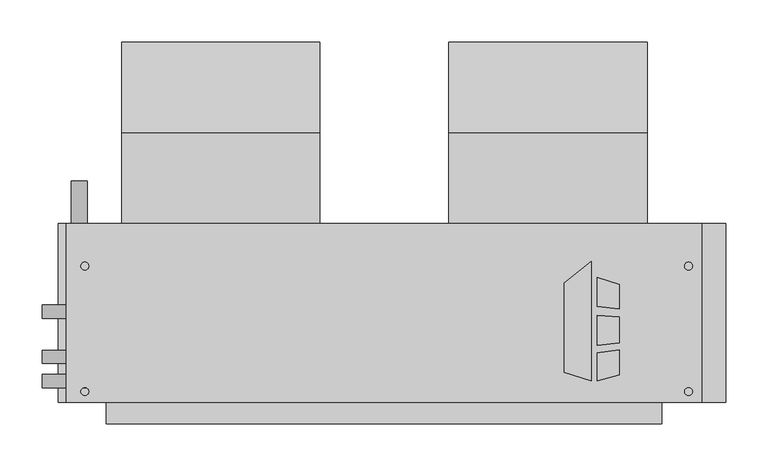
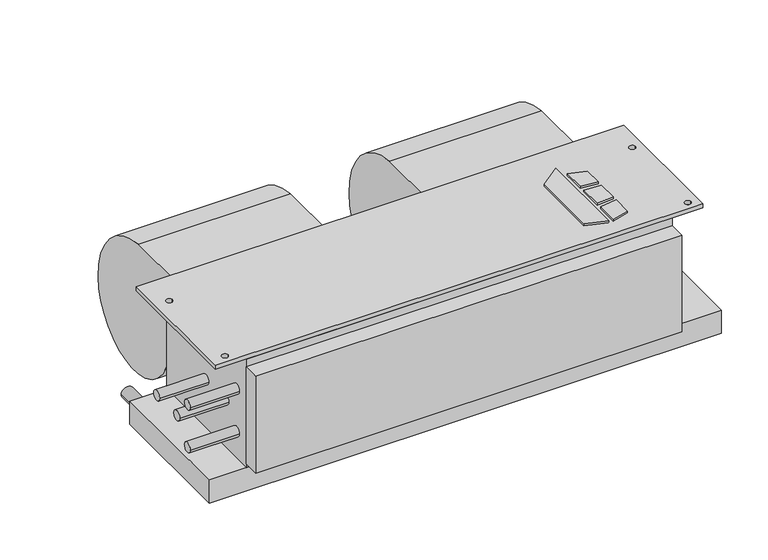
"""IFC4 building model written with IfcOpenShell, lengths in millimetres: proxy geometry, Concealed_Horizontal_Fan_Coil_Unit_-_CHY_-_IEC_-_4-Pipe_LH_2022 : Size 04 - 277v/60Hz/1Ph - 4/1 Coil."""

from ifc_helpers import new_model, si_unit, point, frame, frame_2d, origin, origin_with_axes, place, context, project, spatial, polyline, circle_curve, trimmed, segment, composite_curve, outline, extrude, source, transform, mapped, element, save


def mechanical_equipment_e6d8fa8a(model_context):
    return source(origin(), model_context, "Body", "SweptSolid", [
        extrude(outline(polyline([(366.4019761, -202.5703476), (398.9602728, -177.1330184), (398.9602728, -319.0875), (366.4019761, -308.8679201), (366.4019761, -202.5703476)])), origin_with_axes(), (0.0, 0.0, 1.0), 3.175),
        extrude(outline(polyline([(405.7186058, -230.442352), (405.7186058, -195.9624379), (431.8, -204.1490115), (431.8, -233.6447446), (405.7186058, -230.442352)])), origin_with_axes(), (0.0, 0.0, 1.0), 3.175),
        extrude(outline(polyline([(431.8, -312.0990115), (405.7186058, -319.0875), (405.7186058, -285.8661996), (431.8, -282.3243564), (431.8, -312.0990115)])), origin_with_axes(), (0.0, 0.0, 1.0), 3.175),
        extrude(outline(polyline([(431.8, -242.7263277), (431.8, -273.976483), (405.7186058, -276.717748), (405.7186058, -240.8600378), (431.8, -242.7263277)])), origin_with_axes(), (0.0, 0.0, 1.0), 3.175),
        extrude(outline(composite_curve([segment(trimmed(circle_curve(frame_2d((-33.198831, -136.0299844)), 117.3559541), [point((-23.8125, -19.05))], [point((84.1375, -138.176))], False, "CARTESIAN"), True, "CONTINUOUS"), segment(trimmed(circle_curve(frame_2d((-11.5977337, -136.4250563)), 95.7512443), [point((84.1375, -138.176))], [point((-23.8125, -231.394))], False, "CARTESIAN"), True, "CONTINUOUS"), segment(trimmed(circle_curve(frame_2d((-11.6288131, -136.6666968)), 95.5076133), [point((-23.8125, -231.394))], [point((-107.1245, -138.176))], False, "CARTESIAN"), True, "CONTINUOUS"), segment(trimmed(circle_curve(frame_2d((-126.2059828, -138.4775816)), 19.0838659), [point((-107.1245, -138.176))], [point((-119.3963373, -120.65))], True, "CARTESIAN"), True, "CONTINUOUS"), segment(polyline([(-119.3963373, -120.65), (-131.7625, -120.65), (-131.7625, -19.05), (-23.8125, -19.05)]), True, "CONTINUOUS")], self_intersect=False)), frame((229.4255, 0.0, 0.0), z_axis=(1.0, 0.0, 0.0), x_axis=(0.0, 1.0, 0.0)), (0.0, 0.0, 1.0), 235.712),
        extrude(outline(composite_curve([segment(trimmed(circle_curve(frame_2d((-33.198831, -136.0299844)), 117.3559541), [point((-23.8125, -19.05))], [point((84.1375, -138.176))], False, "CARTESIAN"), True, "CONTINUOUS"), segment(trimmed(circle_curve(frame_2d((-11.5977337, -136.4250563)), 95.7512443), [point((84.1375, -138.176))], [point((-23.8125, -231.394))], False, "CARTESIAN"), True, "CONTINUOUS"), segment(trimmed(circle_curve(frame_2d((-11.6288131, -136.6666968)), 95.5076133), [point((-23.8125, -231.394))], [point((-107.1245, -138.176))], False, "CARTESIAN"), True, "CONTINUOUS"), segment(trimmed(circle_curve(frame_2d((-126.2059828, -138.4775816)), 19.0838659), [point((-107.1245, -138.176))], [point((-119.3963373, -120.65))], True, "CARTESIAN"), True, "CONTINUOUS"), segment(polyline([(-119.3963373, -120.65), (-131.7625, -120.65), (-131.7625, -19.05), (-23.8125, -19.05)]), True, "CONTINUOUS")], self_intersect=False)), frame((-159.512, 0.0, 0.0), z_axis=(1.0, 0.0, 0.0), x_axis=(0.0, 1.0, 0.0)), (0.0, 0.0, 1.0), 235.712),
        extrude(outline(polyline([(530.225, -131.7625), (530.225, -344.4875), (-225.425, -344.4875), (-225.425, -131.7625), (530.225, -131.7625)]), holes=[composite_curve([segment(trimmed(circle_curve(frame_2d((-203.2, -182.5625)), 4.7625), [point((-207.9625, -182.5625))], [point((-198.4375, -182.5625))], True, "CARTESIAN"), True, "CONTINUOUS"), segment(trimmed(circle_curve(frame_2d((-203.2, -182.5625)), 4.7625), [point((-198.4375, -182.5625))], [point((-207.9625, -182.5625))], True, "CARTESIAN"), True, "CONTINUOUS")], self_intersect=False), composite_curve([segment(trimmed(circle_curve(frame_2d((-203.2, -331.7875)), 4.7625), [point((-207.9625, -331.7875))], [point((-198.4375, -331.7875))], True, "CARTESIAN"), True, "CONTINUOUS"), segment(trimmed(circle_curve(frame_2d((-203.2, -331.7875)), 4.7625), [point((-198.4375, -331.7875))], [point((-207.9625, -331.7875))], True, "CARTESIAN"), True, "CONTINUOUS")], self_intersect=False), composite_curve([segment(trimmed(circle_curve(frame_2d((514.35, -182.5625)), 4.7625), [point((509.5875, -182.5625))], [point((519.1125, -182.5625))], True, "CARTESIAN"), True, "CONTINUOUS"), segment(trimmed(circle_curve(frame_2d((514.35, -182.5625)), 4.7625), [point((519.1125, -182.5625))], [point((509.5875, -182.5625))], True, "CARTESIAN"), True, "CONTINUOUS")], self_intersect=False), composite_curve([segment(trimmed(circle_curve(frame_2d((514.35, -331.7875)), 4.7625), [point((509.5875, -331.7875))], [point((519.1125, -331.7875))], True, "CARTESIAN"), True, "CONTINUOUS"), segment(trimmed(circle_curve(frame_2d((514.35, -331.7875)), 4.7625), [point((519.1125, -331.7875))], [point((509.5875, -331.7875))], True, "CARTESIAN"), True, "CONTINUOUS")], self_intersect=False)]), frame((0.0, 0.0, -6.35), z_axis=(0.0, 0.0, 1.0), x_axis=(1.0, 0.0, 0.0)), (0.0, 0.0, 1.0), 6.35),
        extrude(outline(composite_curve([segment(trimmed(circle_curve(frame_2d((-209.55, -209.55)), 9.525), [point((-209.55, -219.075))], [point((-209.55, -200.025))], False, "CARTESIAN"), True, "CONTINUOUS"), segment(trimmed(circle_curve(frame_2d((-209.55, -209.55)), 9.525), [point((-209.55, -200.025))], [point((-209.55, -219.075))], False, "CARTESIAN"), True, "CONTINUOUS")], self_intersect=False)), frame((0.0, -131.7625, 0.0), z_axis=(0.0, 1.0, 0.0), x_axis=(0.0, 0.0, 1.0)), (0.0, 0.0, 1.0), 50.8),
        extrude(outline(polyline([(482.6, -369.8875), (-177.8, -369.8875), (-177.8, -344.4875), (482.6, -344.4875), (482.6, -369.8875)])), frame((0.0, 0.0, -177.8), z_axis=(0.0, 0.0, 1.0), x_axis=(1.0, 0.0, 0.0)), (0.0, 0.0, 1.0), 158.75),
        extrude(outline(polyline([(558.8, -131.7625), (558.8, -344.4875), (-234.95, -344.4875), (-234.95, -131.7625), (558.8, -131.7625)])), frame((0.0, 0.0, -222.25), z_axis=(0.0, 0.0, 1.0), x_axis=(1.0, 0.0, 0.0)), (0.0, 0.0, 1.0), 38.1),
        extrude(outline(composite_curve([segment(trimmed(circle_curve(frame_2d((-236.5375, -104.775)), 7.9375), [point((-228.6, -104.775))], [point((-244.475, -104.775))], False, "CARTESIAN"), True, "CONTINUOUS"), segment(trimmed(circle_curve(frame_2d((-236.5375, -104.775)), 7.9375), [point((-244.475, -104.775))], [point((-228.6, -104.775))], False, "CARTESIAN"), True, "CONTINUOUS")], self_intersect=False)), frame((-254.0, 0.0, 0.0), z_axis=(1.0, 0.0, 0.0), x_axis=(0.0, 1.0, 0.0)), (0.0, 0.0, 1.0), 76.2),
        extrude(outline(composite_curve([segment(trimmed(circle_curve(frame_2d((-290.5125, -104.775)), 7.9375), [point((-282.575, -104.775))], [point((-298.45, -104.775))], False, "CARTESIAN"), True, "CONTINUOUS"), segment(trimmed(circle_curve(frame_2d((-290.5125, -104.775)), 7.9375), [point((-298.45, -104.775))], [point((-282.575, -104.775))], False, "CARTESIAN"), True, "CONTINUOUS")], self_intersect=False)), frame((-254.0, 0.0, 0.0), z_axis=(1.0, 0.0, 0.0), x_axis=(0.0, 1.0, 0.0)), (0.0, 0.0, 1.0), 76.2),
        extrude(outline(composite_curve([segment(trimmed(circle_curve(frame_2d((-319.0875, -69.85)), 7.9375), [point((-311.15, -69.85))], [point((-327.025, -69.85))], False, "CARTESIAN"), True, "CONTINUOUS"), segment(trimmed(circle_curve(frame_2d((-319.0875, -69.85)), 7.9375), [point((-327.025, -69.85))], [point((-311.15, -69.85))], False, "CARTESIAN"), True, "CONTINUOUS")], self_intersect=False)), frame((-254.0, 0.0, 0.0), z_axis=(1.0, 0.0, 0.0), x_axis=(0.0, 1.0, 0.0)), (0.0, 0.0, 1.0), 76.2),
        extrude(outline(composite_curve([segment(trimmed(circle_curve(frame_2d((-319.0875, -139.7)), 7.9375), [point((-311.15, -139.7))], [point((-327.025, -139.7))], False, "CARTESIAN"), True, "CONTINUOUS"), segment(trimmed(circle_curve(frame_2d((-319.0875, -139.7)), 7.9375), [point((-327.025, -139.7))], [point((-311.15, -139.7))], False, "CARTESIAN"), True, "CONTINUOUS")], self_intersect=False)), frame((-254.0, 0.0, 0.0), z_axis=(1.0, 0.0, 0.0), x_axis=(0.0, 1.0, 0.0)), (0.0, 0.0, 1.0), 76.2),
        extrude(outline(polyline([(482.6, -344.4875), (-177.8, -344.4875), (-177.8, -131.7625), (482.6, -131.7625), (482.6, -344.4875)])), frame((0.0, 0.0, -184.15), z_axis=(0.0, 0.0, 1.0), x_axis=(1.0, 0.0, 0.0)), (0.0, 0.0, 1.0), 177.8),
    ])


if __name__ == "__main__":
    model = new_model("IFC4")
    model_context = context("Model", 3, world=origin())
    ifc_project = project(units=[si_unit("LENGTHUNIT", "METRE", prefix="MILLI")], contexts=[model_context])
    site = spatial("IfcSite", under=ifc_project)
    building = spatial("IfcBuilding", under=site)
    placement = place(None, origin())
    mechanical_equipment_shape = mechanical_equipment_e6d8fa8a(model_context)
    element("IfcBuildingElementProxy", 1, Name="Concealed_Horizontal_Fan_Coil_Unit_-_CHY_-_IEC_-_4-Pipe_LH_2022 : Size 04 - 277v/60Hz/1Ph - 4/1 Coil", ObjectType="Concealed_Horizontal_Fan_Coil_Unit_-_CHY_-_IEC_-_4-Pipe_LH_2022 : Size 04 - 277v/60Hz/1Ph - 4/1 Coil", at=placement, inside=building, context=model_context, shape_type="MappedRepresentation", body=[
        mapped(mechanical_equipment_shape, transform((0.0, 0.0, 0.0), x_axis=(1.0, 0.0, 0.0), y_axis=(0.0, 1.0, 0.0), z_axis=(0.0, 0.0, 1.0))),
    ])
    save(model, "model.ifc")
